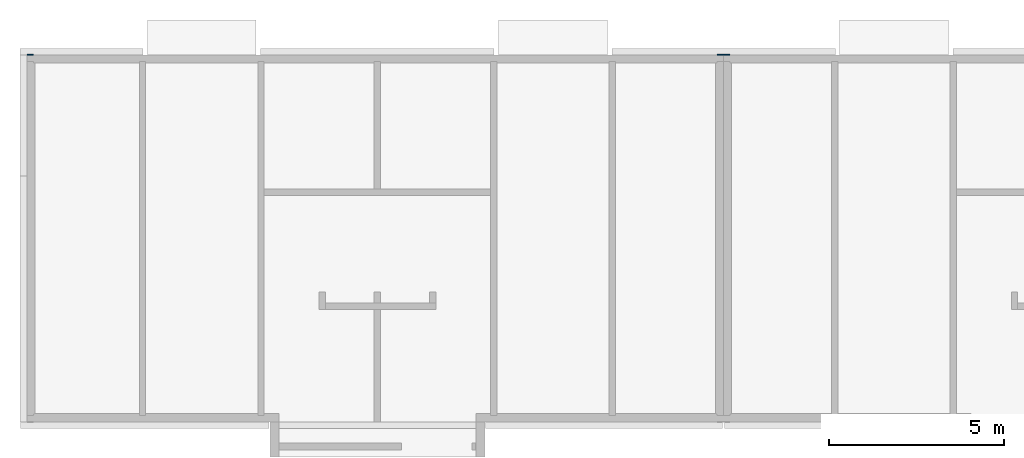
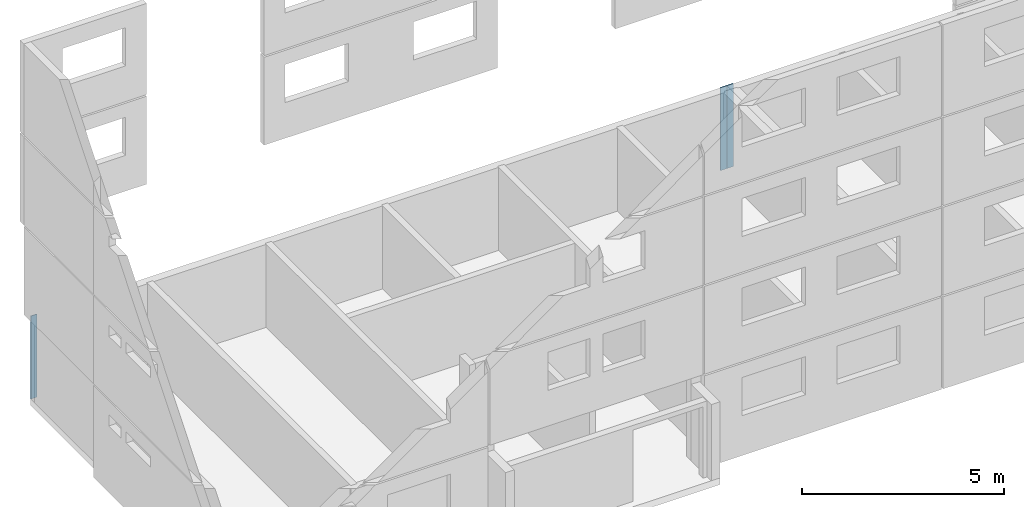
# One storey, part 3 of 15: 3 walls.
"""IFC2X3 building model written with IfcOpenShell, lengths in metres."""

from ifc_helpers import new_model, si_unit, frame, frame_2d, origin, place, context, project, spatial, rectangle, extrude, element, save


model = new_model("IFC2X3")

# Units and contexts
model_context = context("Model", 3, precision=1e-06, world=origin())
ifc_project = project(units=[si_unit("LENGTHUNIT", "METRE"), si_unit("PLANEANGLEUNIT", "RADIAN")], contexts=[model_context])

# Site, building, storey
site = spatial("IfcSite", under=ifc_project, CompositionType="ELEMENT")
building = spatial("IfcBuilding", under=site, CompositionType="ELEMENT")
storey = spatial("IfcBuildingStorey", under=building, Name="rdc", CompositionType="ELEMENT", Elevation=0.0)

# Walls
placement = place(None, origin())
wall_1_placement = place(placement, frame((19.849999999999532, 10.470077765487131, 0.0), z_axis=(0.0, 0.0, 1.0), x_axis=(-1.0, 0.0, 0.0)))
element("IfcWall", 1, at=wall_1_placement, inside=storey, context=model_context, shape_type="SweptSolid", body=[
    extrude(rectangle(XDim=0.18, YDim=0.020000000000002, at=frame_2d((0.09, 0.010000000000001), x_axis=(1.0, 0.0)), kind="CURVE"), frame((0.0, -0.020000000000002, 0.0), z_axis=(0.0, 0.0, 1.0), x_axis=(1.0, 0.0, 0.0)), (0.0, 0.0, 1.0), 2.5),
])
wall_2_placement = place(placement, frame((19.849999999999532, 10.49007776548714, 0.0), z_axis=(0.0, 0.0, 1.0), x_axis=(1.0, 0.0, 0.0)))
element("IfcWall", 2, at=wall_2_placement, inside=storey, context=model_context, shape_type="SweptSolid", body=[
    extrude(rectangle(XDim=0.18, YDim=0.02, at=frame_2d((0.09, 0.01), x_axis=(1.0, 0.0)), kind="CURVE"), frame((0.0, -0.02, 0.0), z_axis=(0.0, 0.0, 1.0), x_axis=(1.0, 0.0, 0.0)), (0.0, 0.0, 1.0), 2.5),
])
wall_3_placement = place(placement, frame((-4e-15, 10.49007776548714, 0.0), z_axis=(0.0, 0.0, 1.0), x_axis=(1.0, 0.0, 0.0)))
element("IfcWall", 3, at=wall_3_placement, inside=storey, context=model_context, shape_type="SweptSolid", body=[
    extrude(rectangle(XDim=0.18, YDim=0.019999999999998, at=frame_2d((0.09, 0.009999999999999), x_axis=(1.0, 0.0)), kind="CURVE"), frame((0.0, -0.019999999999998, 0.0), z_axis=(0.0, 0.0, 1.0), x_axis=(1.0, 0.0, 0.0)), (0.0, 0.0, 1.0), 2.5),
])

save(model, "model.ifc")
